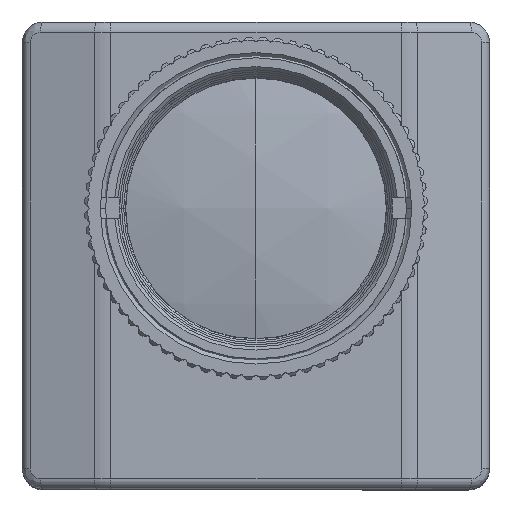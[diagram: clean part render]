
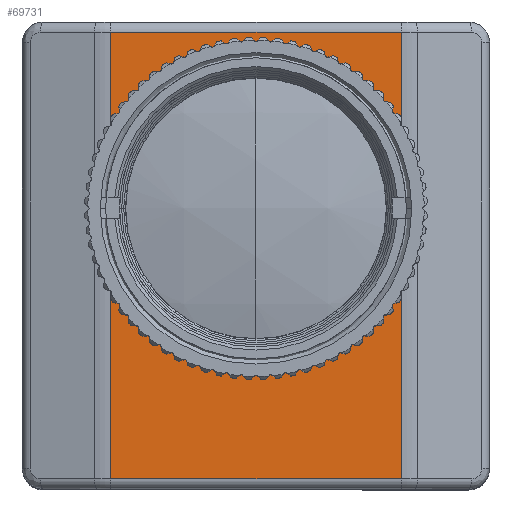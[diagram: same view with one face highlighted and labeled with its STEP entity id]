
A CAD part, top view. The second image highlights one B-rep face of the part: STEP entity #69731.
In plain terms, the highlighted planar face has unit normal (0, 0, 1).
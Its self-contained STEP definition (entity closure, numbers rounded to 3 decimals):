
#605 = AXIS2_PLACEMENT_3D ( 'NONE', #55752, #67092, #33259 ) ;
#1232 = ORIENTED_EDGE ( 'NONE', *, *, #67310, .T. ) ;
#2750 = DIRECTION ( 'NONE',  ( 1., 0., 0. ) ) ;
#3780 = VERTEX_POINT ( 'NONE', #61984 ) ;
#5205 = CARTESIAN_POINT ( 'NONE',  ( -20.5, -26., 0. ) ) ;
#7848 = VERTEX_POINT ( 'NONE', #54440 ) ;
#7937 = DIRECTION ( 'NONE',  ( -1., 0., 0. ) ) ;
#8557 = VECTOR ( 'NONE', #44496, 1000. ) ;
#8946 = LINE ( 'NONE', #55895, #25622 ) ;
#13746 = DIRECTION ( 'NONE',  ( 0., 1., 0. ) ) ;
#16462 = DIRECTION ( 'NONE',  ( 0., 1., 0. ) ) ;
#16798 = EDGE_CURVE ( 'NONE', #7848, #22179, #52029, .T. ) ;
#22179 = VERTEX_POINT ( 'NONE', #35688 ) ;
#22205 = EDGE_CURVE ( 'NONE', #40586, #3780, #25637, .T. ) ;
#22538 = CARTESIAN_POINT ( 'NONE',  ( 0., 0., 0. ) ) ;
#23886 = VECTOR ( 'NONE', #7937, 1000. ) ;
#25622 = VECTOR ( 'NONE', #16462, 1000. ) ;
#25637 = LINE ( 'NONE', #41550, #23886 ) ;
#28183 = DIRECTION ( 'NONE',  ( 1., 0., 0. ) ) ;
#28816 = AXIS2_PLACEMENT_3D ( 'NONE', #22538, #61951, #28183 ) ;
#30234 = ORIENTED_EDGE ( 'NONE', *, *, #38127, .T. ) ;
#32367 = VERTEX_POINT ( 'NONE', #50892 ) ;
#32886 = EDGE_LOOP ( 'NONE', ( #1232, #49368, #73101, #57785 ) ) ;
#33259 = DIRECTION ( 'NONE',  ( 1., 0., 0. ) ) ;
#33722 = LINE ( 'NONE', #47293, #46888 ) ;
#35688 = CARTESIAN_POINT ( 'NONE',  ( -13.55, 0., 0. ) ) ;
#36471 = DIRECTION ( 'NONE',  ( 0., 0., -1. ) ) ;
#36670 = LINE ( 'NONE', #5205, #8557 ) ;
#37832 = AXIS2_PLACEMENT_3D ( 'NONE', #70315, #36471, #2750 ) ;
#38127 = EDGE_CURVE ( 'NONE', #22179, #7848, #66897, .T. ) ;
#38975 = FACE_OUTER_BOUND ( 'NONE', #32886, .T. ) ;
#40586 = VERTEX_POINT ( 'NONE', #54459 ) ;
#40736 = FACE_BOUND ( 'NONE', #64750, .T. ) ;
#41550 = CARTESIAN_POINT ( 'NONE',  ( -20.5, 17., 0. ) ) ;
#44496 = DIRECTION ( 'NONE',  ( 1., 0., 0. ) ) ;
#46888 = VECTOR ( 'NONE', #13746, 1000. ) ;
#47293 = CARTESIAN_POINT ( 'NONE',  ( -14., 18.001, 0. ) ) ;
#49169 = EDGE_CURVE ( 'NONE', #32367, #3780, #33722, .T. ) ;
#49368 = ORIENTED_EDGE ( 'NONE', *, *, #22205, .T. ) ;
#50892 = CARTESIAN_POINT ( 'NONE',  ( -14., -26., 0. ) ) ;
#50976 = VERTEX_POINT ( 'NONE', #67317 ) ;
#52029 = CIRCLE ( 'NONE', #37832, 13.55 ) ;
#54440 = CARTESIAN_POINT ( 'NONE',  ( 13.55, 0., 0. ) ) ;
#54459 = CARTESIAN_POINT ( 'NONE',  ( 14., 17., 0. ) ) ;
#55752 = CARTESIAN_POINT ( 'NONE',  ( -20.5, 16., 0. ) ) ;
#55895 = CARTESIAN_POINT ( 'NONE',  ( 14., -27.001, 0. ) ) ;
#57536 = EDGE_CURVE ( 'NONE', #32367, #50976, #36670, .T. ) ;
#57785 = ORIENTED_EDGE ( 'NONE', *, *, #57536, .T. ) ;
#60648 = ORIENTED_EDGE ( 'NONE', *, *, #16798, .T. ) ;
#61951 = DIRECTION ( 'NONE',  ( 0., 0., -1. ) ) ;
#61984 = CARTESIAN_POINT ( 'NONE',  ( -14., 17., 0. ) ) ;
#64750 = EDGE_LOOP ( 'NONE', ( #60648, #30234 ) ) ;
#66847 = PLANE ( 'NONE',  #605 ) ;
#66897 = CIRCLE ( 'NONE', #28816, 13.55 ) ;
#67092 = DIRECTION ( 'NONE',  ( 0., 0., 1. ) ) ;
#67310 = EDGE_CURVE ( 'NONE', #50976, #40586, #8946, .T. ) ;
#67317 = CARTESIAN_POINT ( 'NONE',  ( 14., -26., 0. ) ) ;
#69731 = ADVANCED_FACE ( 'NONE', ( #40736, #38975 ), #66847, .T. ) ;
#70315 = CARTESIAN_POINT ( 'NONE',  ( 0., 0., 0. ) ) ;
#73101 = ORIENTED_EDGE ( 'NONE', *, *, #49169, .F. ) ;
